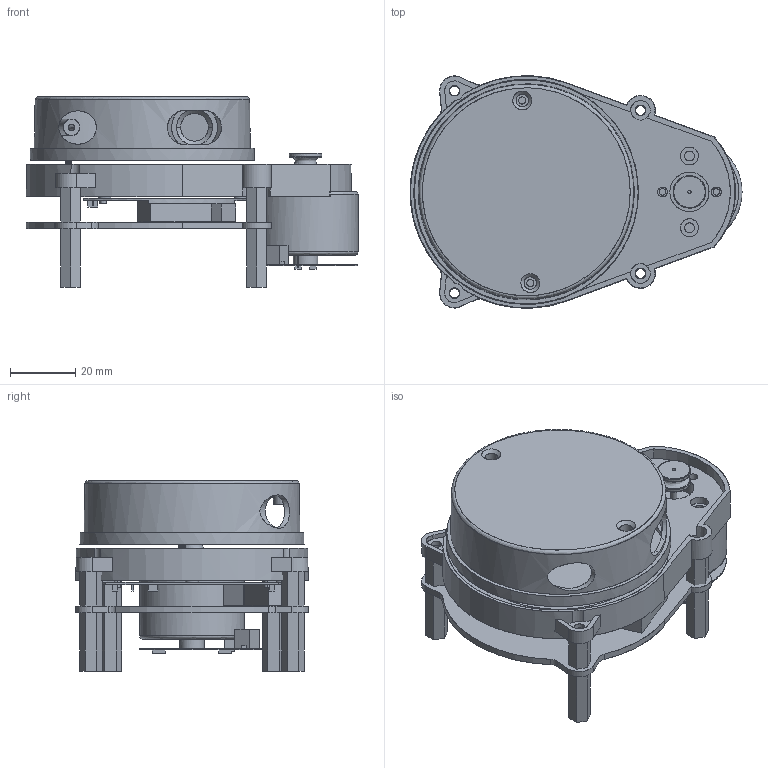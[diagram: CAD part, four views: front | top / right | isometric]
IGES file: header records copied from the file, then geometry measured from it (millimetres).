
Global section: file name: C:\Users\chaos\Desktop\X4.igs; native system: NX V11.0; preprocessor: SIEMENS PLM Software NX 11.0; date: 20171201.152812; units: millimetre
Bounding box: 101.74 x 71.27 x 58.39 mm (x, y, z)
Surface area: 57745.2 mm2 (no closed solid volume)
Topology: 0 solids, 0 shells, 514 faces, 4343 edges, 4200 vertices
Faces by surface type: bspline 514
